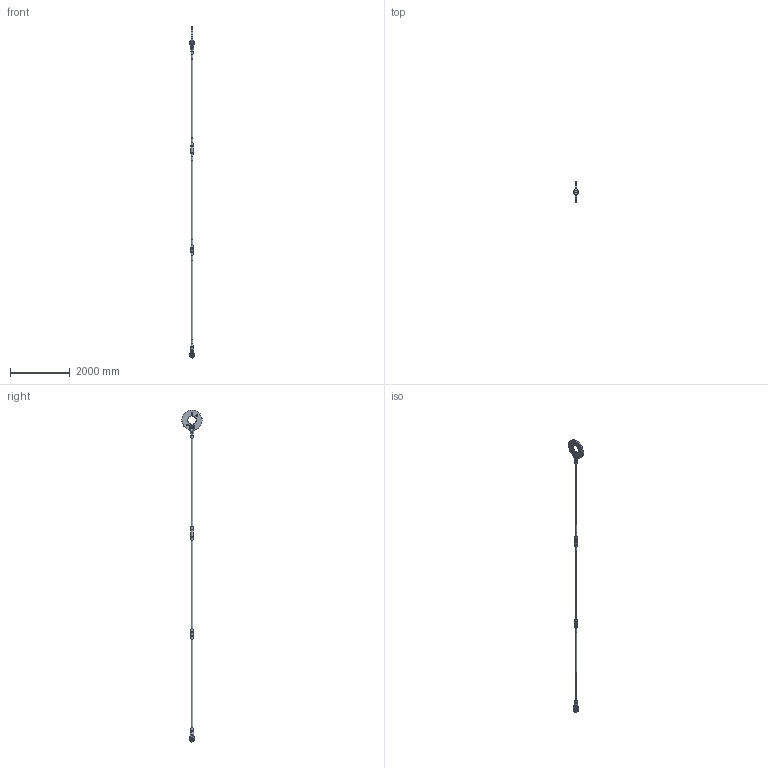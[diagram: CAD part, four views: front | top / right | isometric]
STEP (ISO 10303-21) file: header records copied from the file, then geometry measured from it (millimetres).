
FILE_DESCRIPTION(/* description */ (''),/* implementation_level */ '2;1');
FILE_NAME(/* name */ 'C:\Vault-WS\Anker\Werksnorm\Hochbau\ASDO-System\ASDO-S\System Komplett\Step\M 056.stp',/* time_stamp */ '2014-01-30T09:20:34+01:00',/* author */ ('ritgen'),/* organization */ (''),/* preprocessor_version */ 'ST-DEVELOPER v15.2',/* originating_system */ 'Autodesk Inventor 2014',/* authorisation */ '');
FILE_SCHEMA (('AUTOMOTIVE_DESIGN { 1 0 10303 214 3 1 1 }'));
Length unit declared in the file: millimetre
Products named in the file (11): ASDO-005762; ASDO-006553; ASDO-014323; DIN 7991 - M8x20 - 8.8; ASDO-013936; ASDO-001685; ASDO-001329; ASDO-001455; ASDO-013982; ASDO-014019; ASDO-013981
Bounding box: 139.27 x 679.35 x 11149.32 mm (x, y, z)
Volume: 45758028.4 mm3; surface area: 3570521.7 mm2
Topology: 20 solids, 20 shells, 469 faces, 1006 edges, 616 vertices
Faces by surface type: plane 158, bspline 144, cylinder 79, cone 46, torus 42
Full cylindrical faces by diameter (mm): 6.647 x2, 7 x18, 8 x2, 10 x2, 16 x2, 50.046 x11, 56 x5, 58 x8, 59 x1, 59.5 x6, 80 x4, 80.6 x6, 85 x2, 280 x1, 680 x1
Entity records: 14041 total; most frequent: CARTESIAN_POINT 9613, DIRECTION 806, ORIENTED_EDGE 794, EDGE_CURVE 397, AXIS2_PLACEMENT_3D 362, EDGE_LOOP 326, VERTEX_POINT 277, ADVANCED_FACE 220
